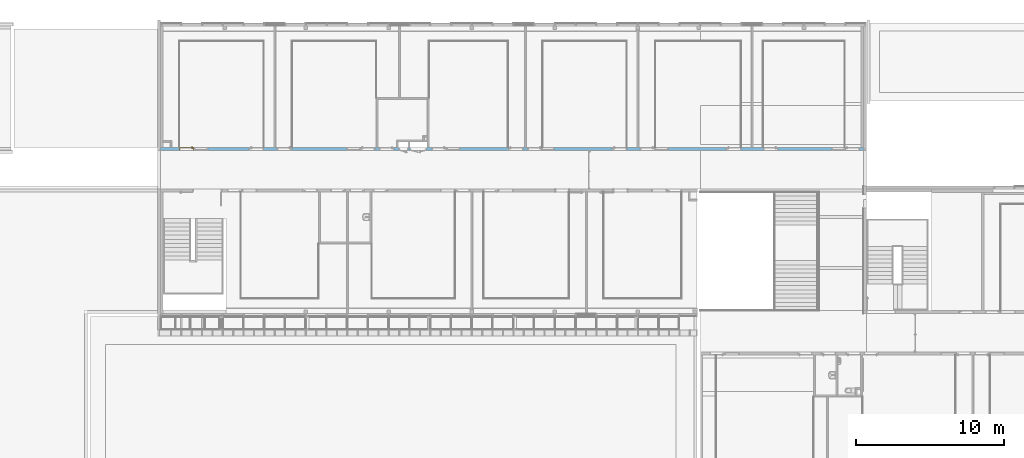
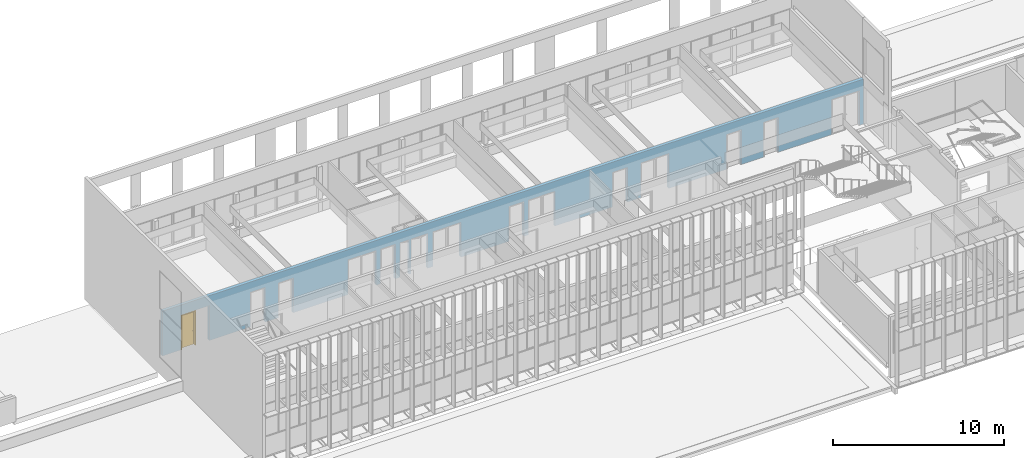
# One storey, part 48 of 106: 1 door, 21 openings, plus 1 element that does not belong to this part.
"""IFC2X3 building model written with IfcOpenShell, lengths in centimetres."""

from ifc_helpers import new_model, entity, si_unit, converted_unit, derived_unit, direction, frame, frame_2d, origin, place, context, subcontext, project, spatial, polyline, rectangle, extrude, clip, bounded_halfspace, faceted_brep, source, transform, mapped, material, material_list, layer, layer_set, layer_usage, type_object, type_shapes, element, fill, save


model = new_model("IFC2X3")

# Units and contexts
model_context = context("Model", 3, precision=0.001, world=origin(), true_north=direction((6.12303176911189e-17, 1.0)))
body_context = subcontext(model_context, "Body", "Model", "MODEL_VIEW")
ifc_project = project(units=[si_unit("LENGTHUNIT", "METRE", prefix="CENTI"), si_unit("AREAUNIT", "SQUARE_METRE"), si_unit("VOLUMEUNIT", "CUBIC_METRE"), converted_unit("PLANEANGLEUNIT", "DEGREE", entity("IfcRatioMeasure", 0.0174532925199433), si_unit("PLANEANGLEUNIT", "RADIAN"), dimensions=[0, 0, 0, 0, 0, 0, 0]), si_unit("MASSUNIT", "GRAM", prefix="KILO"), derived_unit("MASSDENSITYUNIT", [(si_unit("MASSUNIT", "GRAM", prefix="KILO"), 1), (si_unit("LENGTHUNIT", "METRE"), -3)]), si_unit("TIMEUNIT", "SECOND"), si_unit("FREQUENCYUNIT", "HERTZ"), si_unit("THERMODYNAMICTEMPERATUREUNIT", "DEGREE_CELSIUS"), derived_unit("THERMALTRANSMITTANCEUNIT", [(si_unit("MASSUNIT", "GRAM", prefix="KILO"), 1), (si_unit("THERMODYNAMICTEMPERATUREUNIT", "KELVIN"), -1), (si_unit("TIMEUNIT", "SECOND"), -3)]), derived_unit("VOLUMETRICFLOWRATEUNIT", [(si_unit("LENGTHUNIT", "METRE"), 3), (si_unit("TIMEUNIT", "SECOND"), -1)]), si_unit("ELECTRICCURRENTUNIT", "AMPERE"), si_unit("ELECTRICVOLTAGEUNIT", "VOLT"), si_unit("POWERUNIT", "WATT"), si_unit("FORCEUNIT", "NEWTON", prefix="KILO"), si_unit("ILLUMINANCEUNIT", "LUX"), si_unit("LUMINOUSFLUXUNIT", "LUMEN"), si_unit("LUMINOUSINTENSITYUNIT", "CANDELA"), derived_unit("USERDEFINED", [(si_unit("MASSUNIT", "GRAM", prefix="KILO"), -1), (si_unit("LENGTHUNIT", "METRE"), -2), (si_unit("TIMEUNIT", "SECOND"), 3), (si_unit("LUMINOUSFLUXUNIT", "LUMEN"), 1)]), derived_unit("LINEARVELOCITYUNIT", [(si_unit("LENGTHUNIT", "METRE"), 1), (si_unit("TIMEUNIT", "SECOND"), -1)]), si_unit("PRESSUREUNIT", "PASCAL"), derived_unit("USERDEFINED", [(si_unit("LENGTHUNIT", "METRE"), -2), (si_unit("MASSUNIT", "GRAM", prefix="KILO"), 1), (si_unit("TIMEUNIT", "SECOND"), -2)])], contexts=[model_context])

# Site, building, storey
site_placement = place(None, frame((-2781.94577612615, 7442.24238424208, 0.0)))
site = spatial("IfcSite", under=ifc_project, at=site_placement, Name="Default", CompositionType="ELEMENT")
building_placement = place(site_placement, origin())
building = spatial("IfcBuilding", under=site, at=building_placement, CompositionType="ELEMENT")
storey_placement = place(building_placement, frame((0.0, 0.0, 422.0)))
storey = spatial("IfcBuildingStorey", under=building, at=storey_placement, Name="Toiture - Cuisine", CompositionType="ELEMENT", Elevation=421.999999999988)

# Wall, openings, door
ifc_material_1 = material(Name="01 - Maçonnerie")
ifc_layer = layer(ifc_material_1, 20.0)
ifc_layer_set = layer_set([ifc_layer], Name="Mur de base:04 - Structure - béton - 20cm")
ifc_layer_usage = layer_usage(ifc_layer_set, "AXIS2", "NEGATIVE", 10.0)
wall_type = type_object("IfcWallType", Name="Mur de base:04 - Structure - béton - 20cm", PredefinedType="STANDARD", material=ifc_layer_set)
wall_placement = place(building_placement, frame((-8409.49987766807, -820.048500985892, 422.0)))
wall = element("IfcWallStandardCase", 1, at=wall_placement, inside=storey, type_object=wall_type, material=ifc_layer_usage, Name="Mur de base:04 - Structure - béton - 20cm", ObjectType="Mur de base:04 - Structure - béton - 20cm", context=body_context, shape_type="Clipping", body=[
    clip(extrude(rectangle(XDim=4741.49999798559, YDim=20.0, at=frame_2d((2370.74999899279, 2.04281036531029e-14), x_axis=(-1.0, 0.0))), origin(), (0.0, 0.0, 1.0), 321.0), bounded_halfspace(frame((4741.49999798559, -10.0, 321.0), z_axis=(0.0, 0.0, -1.0), x_axis=(0.0, 1.0, 0.0)), True, frame((4741.49999798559, -10.0, 321.0)), polyline([(0.0, 0.0), (0.0, 20.0), (-15.3000000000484, 20.0), (-125.300000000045, 20.0), (-127.300000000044, 20.0), (-675.800000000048, 20.0), (-677.800000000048, 20.0), (-745.800000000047, 20.0), (-755.800000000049, 20.0), (-825.800000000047, 20.0), (-827.800000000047, 20.0), (-1403.80000000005, 20.0), (-1405.80000000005, 20.0), (-1516.49999791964, 20.0), (-1526.49999791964, 20.0), (-1595.78709704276, 20.0), (-1597.78709704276, 20.0), (-2163.80000000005, 20.0), (-2165.80000000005, 20.0), (-2275.80000000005, 20.0), (-2285.80000000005, 20.0), (-2395.80000000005, 20.0), (-2397.80000000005, 20.0), (-2931.80000000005, 20.0), (-2941.80000000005, 20.0), (-3060.80000000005, 20.0), (-3070.80000000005, 20.0), (-3137.80000000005, 20.0), (-3147.80000000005, 20.0), (-3275.80000000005, 20.0), (-3285.80000000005, 20.0), (-3416.49999791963, 20.0), (-3535.80000000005, 20.0), (-3545.80000000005, 20.0), (-3611.80000000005, 20.0), (-3853.80000000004, 20.0), (-3855.80000000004, 20.0), (-3965.80000000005, 20.0), (-3975.80000000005, 20.0), (-4044.30000000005, 20.0), (-4046.30000000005, 20.0), (-4614.19999798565, 20.0), (-4616.19999798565, 20.0), (-4666.19999798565, 20.0), (-4676.19999798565, 20.0), (-4726.19999798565, 20.0), (-4741.49999798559, 20.0), (-4741.49999798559, 0.0), (-1854.0, 0.0), (-1844.0, 0.0), (-1840.0, 0.0), (0.0, 0.0)]))),
])
opening_1_placement = place(wall_placement, frame((1669.50000006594, 10.0, 0.0)))
element("IfcOpeningElement", 2, at=opening_1_placement, cuts=wall, Name="Int. Simple:PP Placard (0.55m x 2.50m):1", ObjectType="Opening", context=body_context, shape_type="SweptSolid", body=[
    extrude(rectangle(XDim=248.500000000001, YDim=61.9999999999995, at=frame_2d((124.250000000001, 30.9999999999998), x_axis=(1.0, 0.0))), frame((0.0, 0.0, 0.0), z_axis=(0.0, -1.0, 0.0), x_axis=(0.0, 0.0, 1.0)), (0.0, 0.0, 1.0), 20.0),
])
opening_2_placement = place(wall_placement, frame((1794.50000006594, 10.0, 0.0)))
element("IfcOpeningElement", 3, at=opening_2_placement, cuts=wall, Name="Int. Double:PP Placard (1.05m x 2.50m):1", ObjectType="Opening", context=body_context, shape_type="SweptSolid", body=[
    extrude(rectangle(XDim=248.500000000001, YDim=112.0, at=frame_2d((124.250000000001, 56.0000000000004), x_axis=(1.0, 0.0))), frame((0.0, 0.0, 0.0), z_axis=(0.0, -1.0, 0.0), x_axis=(0.0, 0.0, 1.0)), (0.0, 0.0, 1.0), 20.0),
])
opening_3_placement = place(wall_placement, frame((126.799999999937, -10.0, 0.0)))
opening_3 = element("IfcOpeningElement", 4, at=opening_3_placement, cuts=wall, Name="Int. Simple:PV (0.93m x 2.50m):1", ObjectType="Opening", context=body_context, shape_type="SweptSolid", body=[
    extrude(rectangle(XDim=248.500000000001, YDim=99.9999999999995, at=frame_2d((124.250000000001, 50.0), x_axis=(1.0, 0.0))), frame((0.0, 0.0, 0.0), z_axis=(0.0, 1.0, 0.0), x_axis=(0.0, 0.0, 1.0)), (0.0, 0.0, 1.0), 20.0),
])
opening_4_placement = place(wall_placement, frame((595.699997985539, -10.0, 0.0)))
element("IfcOpeningElement", 5, at=opening_4_placement, cuts=wall, Name="Int. Simple:PV (0.93m x 2.50m):1", ObjectType="Opening", context=body_context, shape_type="SweptSolid", body=[
    extrude(rectangle(XDim=248.500000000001, YDim=99.9999999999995, at=frame_2d((124.250000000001, 49.9999999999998), x_axis=(1.0, 0.0))), frame((0.0, 0.0, 0.0), z_axis=(0.0, 1.0, 0.0), x_axis=(0.0, 0.0, 1.0)), (0.0, 0.0, 1.0), 20.0),
])
opening_5_placement = place(wall_placement, frame((785.699997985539, -10.0, 0.0)))
element("IfcOpeningElement", 6, at=opening_5_placement, cuts=wall, Name="Int. Simple:PV (0.93m x 2.50m):1", ObjectType="Opening", context=body_context, shape_type="SweptSolid", body=[
    extrude(rectangle(XDim=248.500000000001, YDim=99.9999999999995, at=frame_2d((124.250000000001, 50.0), x_axis=(1.0, 0.0))), frame((0.0, 0.0, 0.0), z_axis=(0.0, 1.0, 0.0), x_axis=(0.0, 0.0, 1.0)), (0.0, 0.0, 1.0), 20.0),
])
opening_6_placement = place(wall_placement, frame((1345.69999798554, -10.0, 0.0)))
element("IfcOpeningElement", 7, at=opening_6_placement, cuts=wall, Name="Int. Simple:PV (0.93m x 2.50m):1", ObjectType="Opening", context=body_context, shape_type="SweptSolid", body=[
    extrude(rectangle(XDim=248.500000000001, YDim=99.9999999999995, at=frame_2d((124.250000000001, 49.9999999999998), x_axis=(1.0, 0.0))), frame((0.0, 0.0, 0.0), z_axis=(0.0, 1.0, 0.0), x_axis=(0.0, 0.0, 1.0)), (0.0, 0.0, 1.0), 20.0),
])
opening_7_placement = place(wall_placement, frame((1475.69999798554, -10.0, 0.0)))
element("IfcOpeningElement", 8, at=opening_7_placement, cuts=wall, Name="Int. Simple:PP simple (0.93m x 2.50m):1", ObjectType="Opening", context=body_context, shape_type="SweptSolid", body=[
    extrude(rectangle(XDim=248.500000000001, YDim=99.9999999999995, at=frame_2d((124.250000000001, 50.0), x_axis=(1.0, 0.0))), frame((0.0, 0.0, 0.0), z_axis=(0.0, 1.0, 0.0), x_axis=(0.0, 0.0, 1.0)), (0.0, 0.0, 1.0), 20.0),
])
opening_8_placement = place(wall_placement, frame((1829.69999798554, -10.0, 0.0)))
element("IfcOpeningElement", 9, at=opening_8_placement, cuts=wall, Name="Int. Simple:PV (0.93m x 2.50m):1", ObjectType="Opening", context=body_context, shape_type="SweptSolid", body=[
    extrude(rectangle(XDim=248.500000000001, YDim=99.9999999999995, at=frame_2d((124.250000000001, 50.0), x_axis=(1.0, 0.0))), frame((0.0, 0.0, 0.0), z_axis=(0.0, 1.0, 0.0), x_axis=(0.0, 0.0, 1.0)), (0.0, 0.0, 1.0), 20.0),
])
opening_9_placement = place(wall_placement, frame((2345.69999798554, -10.0, 0.0)))
element("IfcOpeningElement", 10, at=opening_9_placement, cuts=wall, Name="Int. Simple:PV (0.93m x 2.50m):1", ObjectType="Opening", context=body_context, shape_type="SweptSolid", body=[
    extrude(rectangle(XDim=248.500000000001, YDim=99.9999999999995, at=frame_2d((124.250000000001, 49.9999999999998), x_axis=(1.0, 0.0))), frame((0.0, 0.0, 0.0), z_axis=(0.0, 1.0, 0.0), x_axis=(0.0, 0.0, 1.0)), (0.0, 0.0, 1.0), 20.0),
])
opening_10_placement = place(wall_placement, frame((2475.69999798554, -10.0, 0.0)))
element("IfcOpeningElement", 11, at=opening_10_placement, cuts=wall, Name="Int. Simple:PV (0.93m x 2.50m):1", ObjectType="Opening", context=body_context, shape_type="SweptSolid", body=[
    extrude(rectangle(XDim=248.500000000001, YDim=99.9999999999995, at=frame_2d((124.250000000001, 50.0), x_axis=(1.0, 0.0))), frame((0.0, 0.0, 0.0), z_axis=(0.0, 1.0, 0.0), x_axis=(0.0, 0.0, 1.0)), (0.0, 0.0, 1.0), 20.0),
])
opening_11_placement = place(wall_placement, frame((3045.69999798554, -10.0, 0.0)))
element("IfcOpeningElement", 12, at=opening_11_placement, cuts=wall, Name="Int. Simple:PV (0.93m x 2.50m):1", ObjectType="Opening", context=body_context, shape_type="SweptSolid", body=[
    extrude(rectangle(XDim=248.500000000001, YDim=99.9999999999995, at=frame_2d((124.250000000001, 49.9999999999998), x_axis=(1.0, 0.0))), frame((0.0, 0.0, 0.0), z_axis=(0.0, 1.0, 0.0), x_axis=(0.0, 0.0, 1.0)), (0.0, 0.0, 1.0), 20.0),
])
opening_12_placement = place(wall_placement, frame((3235.69999798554, -10.0, 0.0)))
element("IfcOpeningElement", 13, at=opening_12_placement, cuts=wall, Name="Int. Simple:PV (0.93m x 2.50m):1", ObjectType="Opening", context=body_context, shape_type="SweptSolid", body=[
    extrude(rectangle(XDim=248.500000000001, YDim=99.9999999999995, at=frame_2d((124.250000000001, 50.0), x_axis=(1.0, 0.0))), frame((0.0, 0.0, 0.0), z_axis=(0.0, 1.0, 0.0), x_axis=(0.0, 0.0, 1.0)), (0.0, 0.0, 1.0), 20.0),
])
opening_13_placement = place(wall_placement, frame((3815.69999798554, -10.0, 0.0)))
element("IfcOpeningElement", 14, at=opening_13_placement, cuts=wall, Name="Int. Simple:PV (0.93m x 2.50m):1", ObjectType="Opening", context=body_context, shape_type="SweptSolid", body=[
    extrude(rectangle(XDim=248.500000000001, YDim=99.9999999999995, at=frame_2d((124.250000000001, 49.9999999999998), x_axis=(1.0, 0.0))), frame((0.0, 0.0, 0.0), z_axis=(0.0, 1.0, 0.0), x_axis=(0.0, 0.0, 1.0)), (0.0, 0.0, 1.0), 20.0),
])
opening_14_placement = place(wall_placement, frame((4065.69999798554, -10.0, 0.0)))
element("IfcOpeningElement", 15, at=opening_14_placement, cuts=wall, Name="Int. Simple:PV (0.93m x 2.50m):1", ObjectType="Opening", context=body_context, shape_type="SweptSolid", body=[
    extrude(rectangle(XDim=248.500000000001, YDim=99.9999999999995, at=frame_2d((124.250000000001, 50.0), x_axis=(1.0, 0.0))), frame((0.0, 0.0, 0.0), z_axis=(0.0, 1.0, 0.0), x_axis=(0.0, 0.0, 1.0)), (0.0, 0.0, 1.0), 20.0),
])
opening_15_placement = place(wall_placement, frame((4616.19999798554, -10.0, 0.0)))
element("IfcOpeningElement", 16, at=opening_15_placement, cuts=wall, Name="Int. Simple:PV (0.93m x 2.50m):1", ObjectType="Opening", context=body_context, shape_type="SweptSolid", body=[
    extrude(rectangle(XDim=248.500000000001, YDim=99.9999999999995, at=frame_2d((124.250000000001, 49.9999999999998), x_axis=(1.0, 0.0))), frame((0.0, 0.0, 0.0), z_axis=(0.0, 1.0, 0.0), x_axis=(0.0, 0.0, 1.0)), (0.0, 0.0, 1.0), 20.0),
])
opening_16_placement = place(wall_placement, frame((1255.69999798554, -10.0, 0.0)))
element("IfcOpeningElement", 17, at=opening_16_placement, cuts=wall, Name="châssis intérieur vitré:châssis intérieur vitré (h=270) R+1:1", ObjectType="Opening", context=body_context, shape_type="SweptSolid", body=[
    extrude(rectangle(XDim=250.0, YDim=89.9999999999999, at=frame_2d((125.0, 45.0), x_axis=(1.0, 0.0))), frame((0.0, 0.0, 0.0), z_axis=(0.0, 1.0, 0.0), x_axis=(0.0, 0.0, 1.0)), (0.0, 0.0, 1.0), 20.0),
])
opening_17_placement = place(wall_placement, frame((1929.69999798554, -10.0, 0.0)))
element("IfcOpeningElement", 18, at=opening_17_placement, cuts=wall, Name="châssis intérieur vitré:châssis intérieur vitré (h=270) R+1:1", ObjectType="Opening", context=body_context, shape_type="SweptSolid", body=[
    extrude(rectangle(XDim=250.0, YDim=89.9999999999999, at=frame_2d((125.0, 45.0), x_axis=(1.0, 0.0))), frame((0.0, 0.0, 0.0), z_axis=(0.0, 1.0, 0.0), x_axis=(0.0, 0.0, 1.0)), (0.0, 0.0, 1.0), 20.0),
])
opening_18_placement = place(wall_placement, frame((4526.19999798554, -10.0, 0.0)))
element("IfcOpeningElement", 19, at=opening_18_placement, cuts=wall, Name="châssis intérieur vitré:châssis intérieur vitré (h=270) R+1:1", ObjectType="Opening", context=body_context, shape_type="SweptSolid", body=[
    extrude(rectangle(XDim=250.0, YDim=89.9999999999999, at=frame_2d((125.0, 45.0000000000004), x_axis=(1.0, 0.0))), frame((0.0, 0.0, 0.0), z_axis=(0.0, 1.0, 0.0), x_axis=(0.0, 0.0, 1.0)), (0.0, 0.0, 1.0), 20.0),
])
opening_19_placement = place(wall_placement, frame((3335.69999798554, -10.0, 0.0)))
element("IfcOpeningElement", 20, at=opening_19_placement, cuts=wall, Name="châssis intérieur vitré:châssis intérieur vitré (h=270) R+1:1", ObjectType="Opening", context=body_context, shape_type="SweptSolid", body=[
    extrude(rectangle(XDim=250.0, YDim=89.9999999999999, at=frame_2d((125.0, 45.0000000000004), x_axis=(1.0, 0.0))), frame((0.0, 0.0, 0.0), z_axis=(0.0, 1.0, 0.0), x_axis=(0.0, 0.0, 1.0)), (0.0, 0.0, 1.0), 20.0),
])
opening_20_placement = place(wall_placement, frame((2565.69999798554, -10.0, 0.0)))
element("IfcOpeningElement", 21, at=opening_20_placement, cuts=wall, Name="châssis intérieur vitré:châssis intérieur vitré (h=270) R+1:1", ObjectType="Opening", context=body_context, shape_type="SweptSolid", body=[
    extrude(rectangle(XDim=250.0, YDim=89.9999999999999, at=frame_2d((125.0, 45.0000000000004), x_axis=(1.0, 0.0))), frame((0.0, 0.0, 0.0), z_axis=(0.0, 1.0, 0.0), x_axis=(0.0, 0.0, 1.0)), (0.0, 0.0, 1.0), 20.0),
])
opening_21_placement = place(wall_placement, frame((226.799999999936, -10.0, 0.0)))
element("IfcOpeningElement", 22, at=opening_21_placement, cuts=wall, Name="châssis intérieur vitré:châssis intérieur vitré (h=270) R+1:1", ObjectType="Opening", context=body_context, shape_type="SweptSolid", body=[
    extrude(rectangle(XDim=250.0, YDim=91.4999999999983, at=frame_2d((125.0, 45.7499999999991), x_axis=(1.0, 0.0))), frame((0.0, 0.0, 0.0), z_axis=(0.0, 1.0, 0.0), x_axis=(0.0, 0.0, 1.0)), (0.0, 0.0, 1.0), 20.0),
])
ifc_material_2 = material(Name="Finition Peinture - Blanc satiné")
ifc_material_3 = material(Name="Bois - Panneau de porte")
ifc_material_4 = material(Name="Bois - Cadre de porte")
ifc_material_list_1 = material_list([ifc_material_2, ifc_material_3, ifc_material_4])
ifc_material_list_2 = material_list([ifc_material_2, ifc_material_3, ifc_material_4])
door_style = type_object("IfcDoorStyle", Name="PV (0.93m x 2.50m)", ConstructionType="NOTDEFINED", OperationType="SINGLE_SWING_LEFT", ParameterTakesPrecedence=False, Sizeable=False, material=ifc_material_list_2)
shared_shape = source(origin(), body_context, "Body", "Brep", [
    faceted_brep([(10.5352761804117, -0.500000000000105, 86.6003983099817), (11.5000000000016, -0.500000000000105, 87.0), (11.5000000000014, -0.500000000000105, 108.0), (10.5352761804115, -0.500000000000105, 108.399601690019), (9.50000000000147, -0.500000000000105, 108.535898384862), (8.46472381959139, -0.500000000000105, 108.399601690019), (7.50000000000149, -0.500000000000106, 108.0), (7.50000000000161, -0.500000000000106, 87.0), (8.46472381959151, -0.500000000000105, 86.6003983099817), (9.50000000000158, -0.500000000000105, 86.464101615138), (10.5352761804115, 0.0, 108.399601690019), (11.5000000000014, 0.0, 108.0), (11.5000000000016, 0.0, 87.0), (10.5352761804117, 0.0, 86.6003983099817), (9.50000000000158, 0.0, 86.464101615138), (8.46472381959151, 0.0, 86.6003983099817), (7.50000000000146, 0.0, 87.0), (7.50000000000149, 0.0, 108.0), (8.46472381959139, 0.0, 108.399601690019), (9.50000000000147, 0.0, 108.535898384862)], [[[0, 1, 2, 3, 4, 5, 6, 7, 8, 9]], [[10, 11, 12, 13, 14, 15, 16, 17, 18, 19]], [[16, 15, 8, 7]], [[8, 15, 14, 9]], [[14, 13, 0, 9]], [[13, 12, 1, 0]], [[2, 1, 12, 11]], [[11, 10, 3, 2]], [[3, 10, 19, 4]], [[19, 18, 5, 4]], [[18, 17, 6, 5]], [[7, 6, 17, 16]]]),
    faceted_brep([(10.5352761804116, 4.0, 86.6003983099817), (11.5000000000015, 4.0, 87.0), (11.5000000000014, 4.0, 108.0), (10.5352761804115, 4.0, 108.399601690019), (9.50000000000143, 4.0, 108.535898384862), (8.46472381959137, 4.0, 108.399601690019), (7.50000000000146, 4.0, 108.0), (7.50000000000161, 4.0, 87.0), (8.46472381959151, 4.0, 86.6003983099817), (9.50000000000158, 4.0, 86.464101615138), (10.5352761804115, 4.49999999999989, 108.399601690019), (11.5000000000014, 4.49999999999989, 108.0), (11.5000000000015, 4.49999999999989, 87.0), (10.5352761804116, 4.49999999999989, 86.6003983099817), (9.50000000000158, 4.49999999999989, 86.464101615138), (8.46472381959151, 4.49999999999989, 86.6003983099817), (7.50000000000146, 4.49999999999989, 87.0), (7.50000000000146, 4.49999999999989, 108.0), (8.46472381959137, 4.49999999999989, 108.399601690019), (9.50000000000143, 4.49999999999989, 108.535898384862)], [[[0, 1, 2, 3, 4, 5, 6, 7, 8, 9]], [[10, 11, 12, 13, 14, 15, 16, 17, 18, 19]], [[11, 10, 3, 2]], [[3, 10, 19, 4]], [[19, 18, 5, 4]], [[18, 17, 6, 5]], [[7, 6, 17, 16]], [[16, 15, 8, 7]], [[8, 15, 14, 9]], [[14, 13, 0, 9]], [[13, 12, 1, 0]], [[2, 1, 12, 11]]]),
    faceted_brep([(9.29747013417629, -0.500000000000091, 100.778044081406), (9.70252986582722, -0.500000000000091, 100.778044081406), (10.1000000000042, -0.500000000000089, 100.699999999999), (10.1000000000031, -0.500000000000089, 99.3000000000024), (9.7025298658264, -0.500000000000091, 99.2219559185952), (9.29747013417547, -0.500000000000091, 99.221955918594), (8.8999999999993, -0.500000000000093, 99.2999999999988), (8.89999999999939, -0.500000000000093, 100.7), (8.89999999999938, -3.26509507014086, 100.7), (9.29747013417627, -3.10045754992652, 100.778044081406), (10.9023585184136, -4.70534593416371, 100.778044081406), (11.0701397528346, -4.30028620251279, 100.778044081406), (9.7025298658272, -2.93267631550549, 100.778044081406), (10.1000000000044, -2.76803879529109, 100.7), (10.1000000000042, -2.76803879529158, 99.3000000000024), (9.7025298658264, -2.93267631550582, 99.2219559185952), (11.0701397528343, -4.30028620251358, 99.2219559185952), (10.9023585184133, -4.70534593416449, 99.221955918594), (9.29747013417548, -3.10045754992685, 99.221955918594), (8.89999999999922, -3.26509507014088, 99.2999999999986), (10.7377209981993, -5.10281606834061, 100.7), (11.2347772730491, -3.90281606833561, 100.7), (11.2347772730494, -3.90281606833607, 99.3000000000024), (10.7377209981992, -5.10281606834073, 99.2999999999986), (19.5018640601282, -5.1028160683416, 99.2999999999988), (19.5018640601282, -4.70534593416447, 99.221955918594), (19.5018640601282, -4.30028620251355, 99.2219559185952), (19.5018640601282, -3.90281606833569, 99.3000000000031), (19.5018640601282, -3.90281606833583, 100.7), (19.5018640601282, -4.30028620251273, 100.778044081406), (19.5018640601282, -4.70534593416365, 100.778044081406), (19.5018640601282, -5.10281606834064, 100.699999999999), (14.7307697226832, -5.10281606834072, 100.7), (15.2860019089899, -4.5028160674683, 100.78786867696), (15.3683206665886, -3.9028160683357, 100.7), (15.3683206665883, -3.90281606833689, 99.3000000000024), (15.2860018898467, -4.50281607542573, 99.2121313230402), (14.7307700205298, -5.10281606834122, 99.2999999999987)], [[[0, 1, 2, 3, 4, 5, 6, 7]], [[8, 9, 0, 7]], [[9, 10, 11, 12, 1, 0]], [[12, 13, 2, 1]], [[3, 2, 13, 14]], [[14, 15, 4, 3]], [[15, 16, 17, 18, 5, 4]], [[18, 19, 6, 5]], [[7, 6, 19, 8]], [[20, 10, 9, 8]], [[11, 21, 13, 12]], [[14, 13, 21, 22]], [[22, 16, 15, 14]], [[17, 23, 19, 18]], [[8, 19, 23, 20]], [[24, 25, 26, 27, 28, 29, 30, 31]], [[32, 30, 33]], [[31, 30, 32]], [[10, 20, 32]], [[33, 34, 11]], [[21, 11, 34]], [[34, 29, 28]], [[30, 29, 33]], [[29, 34, 33]], [[10, 32, 33]], [[10, 33, 11]], [[22, 21, 34, 28, 27, 35]], [[35, 26, 36]], [[37, 36, 25]], [[22, 35, 16]], [[35, 27, 26]], [[24, 37, 25]], [[23, 17, 37]], [[37, 17, 36]], [[17, 16, 36]], [[16, 35, 36]], [[25, 36, 26]], [[20, 23, 37, 24, 31, 32]]]),
    faceted_brep([(9.29747013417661, 4.49999999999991, 100.778044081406), (8.89999999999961, 4.4999999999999, 100.7), (8.89999999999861, 4.4999999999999, 99.2999999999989), (9.29747013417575, 4.49999999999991, 99.221955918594), (9.70252986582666, 4.49999999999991, 99.2219559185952), (10.1000000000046, 4.49999999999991, 99.3000000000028), (10.1000000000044, 4.49999999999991, 100.7), (9.70252986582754, 4.49999999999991, 100.778044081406), (10.1000000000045, 6.7485204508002, 99.3000000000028), (10.1000000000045, 6.74852045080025, 100.7), (9.70252986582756, 6.91315797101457, 100.778044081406), (11.083890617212, 8.29451872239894, 100.778044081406), (10.916109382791, 8.69957845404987, 100.778044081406), (9.29747013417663, 7.0809392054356, 100.778044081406), (8.89999999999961, 7.24557672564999, 100.7), (8.89999999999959, 7.2455767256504, 99.2999999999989), (9.29747013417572, 7.08093920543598, 99.221955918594), (10.9161093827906, 8.69957845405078, 99.221955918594), (11.0838906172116, 8.29451872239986, 99.2219559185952), (9.70252986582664, 6.91315797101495, 99.2219559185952), (11.2485281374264, 7.89704858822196, 99.3000000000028), (11.2485281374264, 7.89704858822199, 100.7), (10.7514718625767, 9.09704858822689, 100.7), (10.7514718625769, 9.0970485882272, 99.2999999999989), (19.5045783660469, 7.89704858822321, 99.3000000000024), (19.5045783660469, 8.29451872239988, 99.2219559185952), (19.5045783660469, 8.6995784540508, 99.221955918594), (19.5045783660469, 9.09704858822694, 99.2999999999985), (19.5045783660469, 9.09704858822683, 100.7), (19.5045783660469, 8.69957845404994, 100.778044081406), (19.5045783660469, 8.29451872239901, 100.778044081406), (19.5045783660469, 7.89704858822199, 100.7), (15.3765520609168, 7.89704858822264, 99.3000000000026), (15.3765532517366, 7.89704858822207, 100.7), (15.294234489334, 8.49704858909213, 100.78786867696), (14.7445205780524, 9.09704858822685, 100.7), (14.7445204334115, 9.09704858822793, 99.2999999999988), (15.2942345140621, 8.49704858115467, 99.2121313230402)], [[[0, 1, 2, 3, 4, 5, 6, 7]], [[6, 5, 8, 9]], [[9, 10, 7, 6]], [[10, 11, 12, 13, 0, 7]], [[13, 14, 1, 0]], [[2, 1, 14, 15]], [[15, 16, 3, 2]], [[16, 17, 18, 19, 4, 3]], [[19, 8, 5, 4]], [[9, 8, 20, 21]], [[21, 11, 10, 9]], [[12, 22, 14, 13]], [[15, 14, 22, 23]], [[23, 17, 16, 15]], [[18, 20, 8, 19]], [[24, 25, 26, 27, 28, 29, 30, 31]], [[21, 20, 32, 24, 31, 33]], [[33, 30, 34]], [[35, 34, 29]], [[21, 33, 11]], [[33, 31, 30]], [[28, 35, 29]], [[22, 12, 35]], [[35, 12, 34]], [[12, 11, 34]], [[11, 33, 34]], [[29, 34, 30]], [[22, 35, 28, 27, 36, 23]], [[36, 26, 37]], [[27, 26, 36]], [[17, 23, 36]], [[37, 32, 18]], [[20, 18, 32]], [[32, 25, 24]], [[26, 25, 37]], [[25, 32, 37]], [[17, 36, 37]], [[17, 37, 18]]]),
    faceted_brep([(3.50000000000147, 4.0, 245.0), (96.5000000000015, 4.0, 245.0), (96.5000000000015, 4.0, 0.0), (3.50000000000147, 4.0, 0.0), (3.50000000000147, 0.0, 245.0), (3.50000000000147, 0.0, 0.0), (96.5000000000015, 0.0, 0.0), (96.5000000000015, 0.0, 245.0)], [[[0, 1, 2, 3]], [[4, 5, 6, 7]], [[1, 0, 4, 7]], [[2, 1, 7, 6]], [[3, 2, 6, 5]], [[0, 3, 5, 4]]]),
    faceted_brep([(0.0, 20.0, 0.0), (-1.50000000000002, 20.0, 0.0), (-1.50000000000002, 20.5000000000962, 0.0), (5.0, 20.5000000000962, 0.0), (5.0, 4.0, 0.0), (3.50000000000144, 4.0, 0.0), (3.50000000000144, -0.500000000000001, 0.0), (-1.50000000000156, -0.500000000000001, 0.0), (-1.50000000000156, 0.0, 0.0), (0.0, 0.0, 0.0), (0.0, 20.0, 248.500000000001), (100.0, 20.0, 248.500000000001), (100.0, 20.0, 0.0), (101.5, 20.0, 0.0), (101.5, 20.0, 250.0), (-1.50000000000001, 20.0, 250.0), (-1.50000000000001, 20.5000000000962, 250.0), (101.5, 20.5000000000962, 250.0), (101.5, 20.5000000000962, 0.0), (95.0, 20.5000000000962, 0.0), (95.0, 20.5000000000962, 243.5), (5.0, 20.5000000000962, 243.5), (5.0, 4.0, 243.5), (95.0, 4.0, 243.5), (95.0, 4.0, 0.0), (96.499999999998, 4.0, 0.0), (96.499999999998, 4.0, 245.0), (3.50000000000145, 4.0, 245.0), (3.50000000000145, -0.500000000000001, 245.0), (96.499999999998, -0.500000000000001, 245.0), (96.499999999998, -0.500000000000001, 0.0), (101.500000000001, -0.500000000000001, 0.0), (101.500000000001, -0.500000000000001, 250.0), (-1.50000000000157, -0.500000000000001, 250.0), (-1.50000000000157, 0.0, 250.0), (101.500000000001, 0.0, 250.0), (101.500000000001, 0.0, 0.0), (100.0, 0.0, 0.0), (100.0, 0.0, 248.500000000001), (0.0, 0.0, 248.500000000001)], [[[0, 1, 2, 3, 4, 5, 6, 7, 8, 9]], [[1, 0, 10, 11, 12, 13, 14, 15]], [[2, 1, 15, 16]], [[3, 2, 16, 17, 18, 19, 20, 21]], [[3, 21, 22, 4]], [[5, 4, 22, 23, 24, 25, 26, 27]], [[5, 27, 28, 6]], [[7, 6, 28, 29, 30, 31, 32, 33]], [[8, 7, 33, 34]], [[9, 8, 34, 35, 36, 37, 38, 39]], [[0, 9, 39, 10]], [[11, 38, 37, 12]], [[12, 37, 36, 31, 30, 25, 24, 19, 18, 13]], [[17, 14, 13, 18]], [[23, 20, 19, 24]], [[29, 26, 25, 30]], [[35, 32, 31, 36]], [[16, 15, 14, 17]], [[22, 21, 20, 23]], [[28, 27, 26, 29]], [[34, 33, 32, 35]], [[10, 39, 38, 11]]]),
])
type_shapes(door_style, [shared_shape])
door_placement = place(opening_3_placement, frame((100.0, 20.0, 0.0), z_axis=(0.0, 0.0, 1.0), x_axis=(-1.0, 0.0, 0.0)))
door = element("IfcDoor", 23, at=door_placement, inside=storey, type_object=door_style, material=ifc_material_list_1, Name="Int. Simple:PV (0.93m x 2.50m)", ObjectType="Int. Simple:PV (0.93m x 2.50m)", OverallHeight=248.500000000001, OverallWidth=99.9999999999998, context=body_context, shape_type="MappedRepresentation", body=[
    mapped(shared_shape, transform((0.0, 0.0, 0.0), scale=1.0)),
])
fill(opening_3, door)

save(model, "model.ifc")
